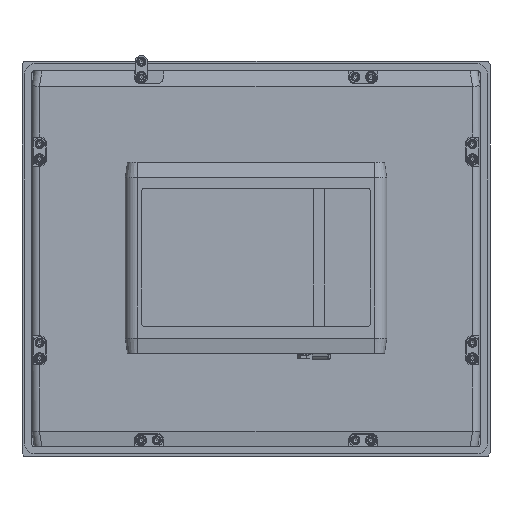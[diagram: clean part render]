
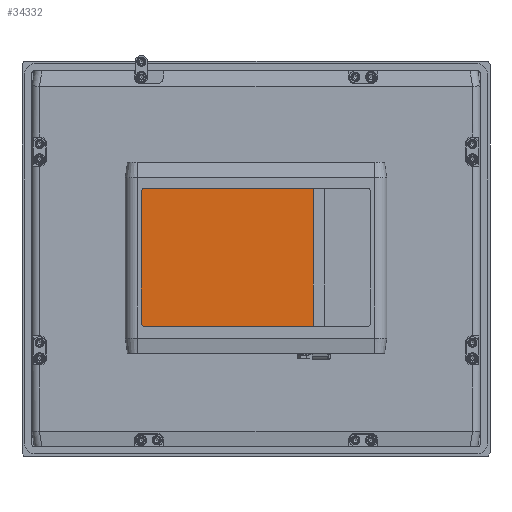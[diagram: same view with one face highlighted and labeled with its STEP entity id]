
A CAD part, top view. The second image highlights one B-rep face of the part: STEP entity #34332.
In plain terms, the highlighted planar face has unit normal (0, 0, 1).
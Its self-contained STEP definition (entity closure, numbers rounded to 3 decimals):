
#1250=PLANE('',#36590);
#3391=FACE_OUTER_BOUND('',#5272,.T.);
#5272=EDGE_LOOP('',(#27493,#27494,#27495,#27496,#27497,#27498));
#8190=LINE('',#55300,#11719);
#8198=LINE('',#55316,#11727);
#8199=LINE('',#55320,#11728);
#8200=LINE('',#55323,#11729);
#11719=VECTOR('',#42766,90.);
#11727=VECTOR('',#42780,110.5);
#11728=VECTOR('',#42783,86.);
#11729=VECTOR('',#42786,110.5);
#13714=CIRCLE('',#36591,2.);
#13715=CIRCLE('',#36592,2.);
#15976=VERTEX_POINT('',#55297);
#15977=VERTEX_POINT('',#55299);
#15982=VERTEX_POINT('',#55315);
#15983=VERTEX_POINT('',#55317);
#15984=VERTEX_POINT('',#55319);
#15985=VERTEX_POINT('',#55321);
#20097=EDGE_CURVE('',#15977,#15976,#8190,.T.);
#20105=EDGE_CURVE('',#15982,#15976,#8198,.T.);
#20106=EDGE_CURVE('',#15983,#15982,#13714,.T.);
#20107=EDGE_CURVE('',#15984,#15983,#8199,.T.);
#20108=EDGE_CURVE('',#15985,#15984,#13715,.T.);
#20109=EDGE_CURVE('',#15977,#15985,#8200,.T.);
#27493=ORIENTED_EDGE('',*,*,#20097,.T.);
#27494=ORIENTED_EDGE('',*,*,#20105,.F.);
#27495=ORIENTED_EDGE('',*,*,#20106,.F.);
#27496=ORIENTED_EDGE('',*,*,#20107,.F.);
#27497=ORIENTED_EDGE('',*,*,#20108,.F.);
#27498=ORIENTED_EDGE('',*,*,#20109,.F.);
#34332=ADVANCED_FACE('',(#3391),#1250,.T.);
#36590=AXIS2_PLACEMENT_3D('',#55314,#42778,#42779);
#36591=AXIS2_PLACEMENT_3D('',#55318,#42781,#42782);
#36592=AXIS2_PLACEMENT_3D('',#55322,#42784,#42785);
#42766=DIRECTION('',(0.,1.,0.));
#42778=DIRECTION('center_axis',(0.,0.,
1.));
#42779=DIRECTION('ref_axis',(1.,0.,0.));
#42780=DIRECTION('',(1.,0.,0.));
#42781=DIRECTION('center_axis',(0.,0.,
-1.));
#42782=DIRECTION('ref_axis',(-0.707,0.707,0.));
#42783=DIRECTION('',(0.,1.,0.));
#42784=DIRECTION('center_axis',(0.,0.,
-1.));
#42785=DIRECTION('ref_axis',(-0.707,-0.707,0.));
#42786=DIRECTION('',(-1.,0.,0.));
#55297=CARTESIAN_POINT('',(37.5,35.794,177.602));
#55299=CARTESIAN_POINT('',(37.5,-54.206,177.602));
#55300=CARTESIAN_POINT('',(37.5,-54.206,177.602));
#55314=CARTESIAN_POINT('Origin',(0.,-9.206,
177.602));
#55315=CARTESIAN_POINT('',(-73.,35.794,177.602));
#55316=CARTESIAN_POINT('',(-73.,35.794,177.602));
#55317=CARTESIAN_POINT('',(-75.,33.794,177.602));
#55318=CARTESIAN_POINT('Origin',(-73.,33.794,177.602));
#55319=CARTESIAN_POINT('',(-75.,-52.206,177.602));
#55320=CARTESIAN_POINT('',(-75.,-52.206,177.602));
#55321=CARTESIAN_POINT('',(-73.,-54.206,177.602));
#55322=CARTESIAN_POINT('Origin',(-73.,-52.206,177.602));
#55323=CARTESIAN_POINT('',(37.5,-54.206,177.602));
